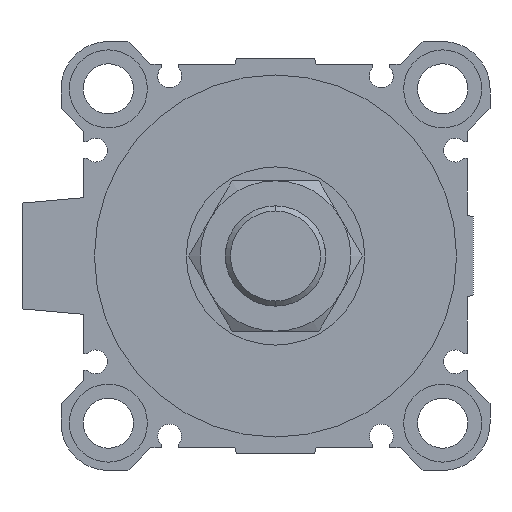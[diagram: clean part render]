
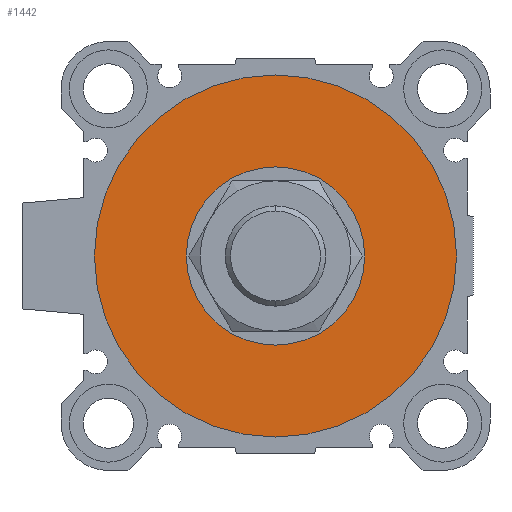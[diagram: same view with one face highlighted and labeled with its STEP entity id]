
A CAD part, left-side view. The second image highlights one B-rep face of the part: STEP entity #1442.
In plain terms, the highlighted planar face has unit normal (-1, 0, 0).
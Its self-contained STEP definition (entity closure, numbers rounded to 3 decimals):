
#66 = EDGE_CURVE ( 'NONE', #5191, #7313, #3594, .T. ) ;
#289 = DIRECTION ( 'NONE',  ( 1., 0., 0. ) ) ;
#821 = CARTESIAN_POINT ( 'NONE',  ( 4., 0., 0. ) ) ;
#1133 = ORIENTED_EDGE ( 'NONE', *, *, #6434, .F. ) ;
#1187 = DIRECTION ( 'NONE',  ( 0., 0., -1. ) ) ;
#1264 = AXIS2_PLACEMENT_3D ( 'NONE', #7264, #5540, #2632 ) ;
#1442 = ADVANCED_FACE ( 'NONE', ( #5506, #5584 ), #3202, .F. ) ;
#1541 = DIRECTION ( 'NONE',  ( 0., 0., -1. ) ) ;
#1580 = CARTESIAN_POINT ( 'NONE',  ( 4., 0., -32.5 ) ) ;
#2015 = CIRCLE ( 'NONE', #7030, 16. ) ;
#2508 = CARTESIAN_POINT ( 'NONE',  ( 4., 0., -16. ) ) ;
#2585 = CARTESIAN_POINT ( 'NONE',  ( 4., 0., 0. ) ) ;
#2632 = DIRECTION ( 'NONE',  ( 0., 1., 0. ) ) ;
#3129 = ORIENTED_EDGE ( 'NONE', *, *, #66, .F. ) ;
#3202 = PLANE ( 'NONE',  #1264 ) ;
#3594 = CIRCLE ( 'NONE', #7255, 32.5 ) ;
#3761 = EDGE_LOOP ( 'NONE', ( #1133, #3129 ) ) ;
#3807 = VERTEX_POINT ( 'NONE', #4211 ) ;
#3825 = AXIS2_PLACEMENT_3D ( 'NONE', #4687, #4106, #1187 ) ;
#4033 = ORIENTED_EDGE ( 'NONE', *, *, #6173, .T. ) ;
#4106 = DIRECTION ( 'NONE',  ( 1., 0., 0. ) ) ;
#4136 = CARTESIAN_POINT ( 'NONE',  ( 4., 0., 32.5 ) ) ;
#4211 = CARTESIAN_POINT ( 'NONE',  ( 4., 0., 16. ) ) ;
#4243 = CARTESIAN_POINT ( 'NONE',  ( 4., 0., 0. ) ) ;
#4320 = DIRECTION ( 'NONE',  ( 1., 0., 0. ) ) ;
#4687 = CARTESIAN_POINT ( 'NONE',  ( 4., 0., 0. ) ) ;
#4779 = DIRECTION ( 'NONE',  ( 0., 0., -1. ) ) ;
#5191 = VERTEX_POINT ( 'NONE', #1580 ) ;
#5330 = EDGE_LOOP ( 'NONE', ( #7111, #4033 ) ) ;
#5506 = FACE_OUTER_BOUND ( 'NONE', #3761, .T. ) ;
#5540 = DIRECTION ( 'NONE',  ( 1., 0., 0. ) ) ;
#5584 = FACE_BOUND ( 'NONE', #5330, .T. ) ;
#5652 = AXIS2_PLACEMENT_3D ( 'NONE', #4243, #5926, #4779 ) ;
#5926 = DIRECTION ( 'NONE',  ( 1., 0., 0. ) ) ;
#6173 = EDGE_CURVE ( 'NONE', #6758, #3807, #2015, .T. ) ;
#6434 = EDGE_CURVE ( 'NONE', #7313, #5191, #6740, .T. ) ;
#6512 = CIRCLE ( 'NONE', #3825, 16. ) ;
#6740 = CIRCLE ( 'NONE', #5652, 32.5 ) ;
#6757 = DIRECTION ( 'NONE',  ( 0., 0., -1. ) ) ;
#6758 = VERTEX_POINT ( 'NONE', #2508 ) ;
#6993 = EDGE_CURVE ( 'NONE', #3807, #6758, #6512, .T. ) ;
#7030 = AXIS2_PLACEMENT_3D ( 'NONE', #821, #289, #6757 ) ;
#7111 = ORIENTED_EDGE ( 'NONE', *, *, #6993, .T. ) ;
#7255 = AXIS2_PLACEMENT_3D ( 'NONE', #2585, #4320, #1541 ) ;
#7264 = CARTESIAN_POINT ( 'NONE',  ( 4., 0., 0. ) ) ;
#7313 = VERTEX_POINT ( 'NONE', #4136 ) ;
